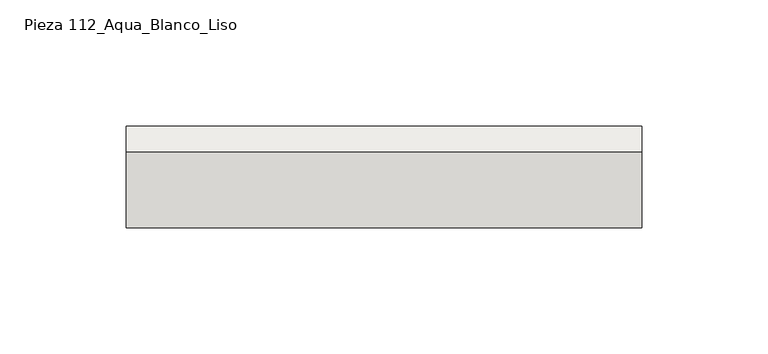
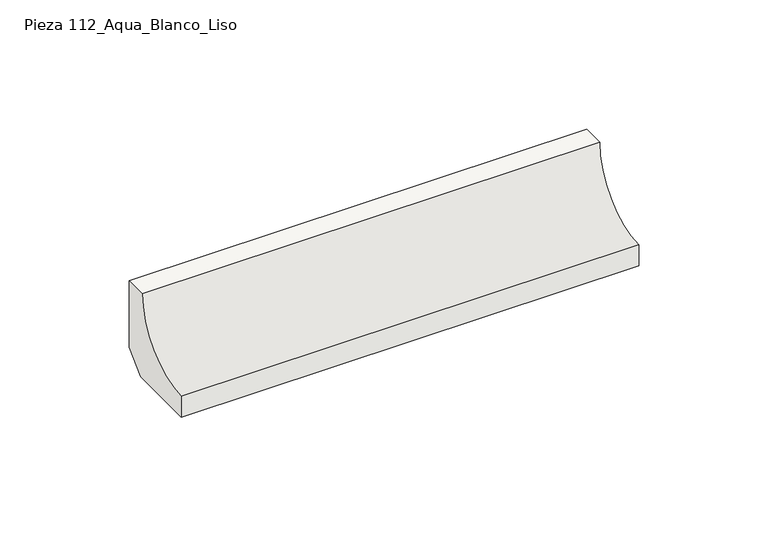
"""IFC4 building model written with IfcOpenShell, lengths in millimetres: slab geometry, ROSA GRES_112 : Pieza 112_Aqua_Blanco_Liso."""

from ifc_helpers import new_model, si_unit, point, frame, frame_2d, origin, place, context, project, spatial, polyline, circle_curve, trimmed, segment, composite_curve, outline, extrude, source, transform, mapped, element, save


def pieza_112_aqua_blanco_liso_9c2c31af(model_context):
    return source(origin(), model_context, "Body", "SweptSolid", [
        extrude(outline(composite_curve([segment(polyline([(9.9734114, 8.7114978), (1.2619137, 0.0), (-30.0265886, 0.0), (-30.0265886, 9.9734114)]), True, "CONTINUOUS"), segment(trimmed(circle_curve(frame_2d((-30.0221432, 39.9955547)), 30.0221435), [point((-30.0265886, 9.9734114))], [point((0.0, 40.0))], True, "CARTESIAN"), True, "CONTINUOUS"), segment(polyline([(0.0, 40.0), (9.9734114, 40.0), (9.9734114, 8.7114978)]), True, "CONTINUOUS")], self_intersect=False)), frame((0.0, 0.0, 0.0), z_axis=(1.0, 0.0, 0.0), x_axis=(0.0, 1.0, 0.0)), (0.0, 0.0, 1.0), 203.836227),
    ])


if __name__ == "__main__":
    model = new_model("IFC4")
    model_context = context("Model", 3, world=origin())
    ifc_project = project(units=[si_unit("LENGTHUNIT", "METRE", prefix="MILLI")], contexts=[model_context])
    site = spatial("IfcSite", under=ifc_project)
    building = spatial("IfcBuilding", under=site)
    placement = place(None, origin())
    pieza_112_aqua_blanco_liso_shape = pieza_112_aqua_blanco_liso_9c2c31af(model_context)
    element("IfcSlab", 1, ObjectType="ROSA GRES_112 : Pieza 112_Aqua_Blanco_Liso", at=placement, inside=building, context=model_context, shape_type="MappedRepresentation", body=[
        mapped(pieza_112_aqua_blanco_liso_shape, transform((0.0, 0.0, 0.0), x_axis=(1.0, 0.0, 0.0), y_axis=(0.0, 1.0, 0.0), z_axis=(0.0, 0.0, 1.0))),
    ])
    save(model, "model.ifc")
